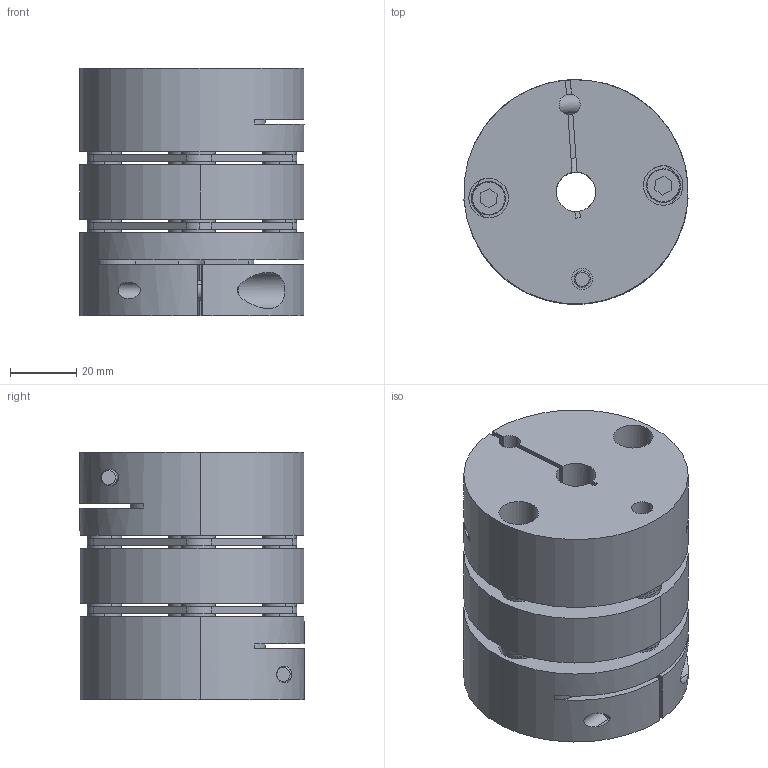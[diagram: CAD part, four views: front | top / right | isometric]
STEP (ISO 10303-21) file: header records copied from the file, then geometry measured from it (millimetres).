
FILE_DESCRIPTION (( 'STEP AP214' ), '1' );
FILE_NAME ('LC-G-060DA-12B-12B.STEP', '2019-09-16T02:52:25', ( 'admin' ), ( 'Microsoft' ), 'SwSTEP 2.0', 'SolidWorks 2016', '' );
FILE_SCHEMA (( 'AUTOMOTIVE_DESIGN' ));
Length unit declared in the file: millimetre
Products named in the file (1): LC-G-060DA-12B-12B
Bounding box: 67.85 x 67.99 x 75.1 mm (x, y, z)
Volume: 207157.2 mm3; surface area: 67777.3 mm2
Topology: 31 solids, 31 shells, 446 faces, 1034 edges, 668 vertices
Faces by surface type: cylinder 210, plane 176, torus 40, cone 20
Entity records: 18732 total; most frequent: CARTESIAN_POINT 2685, DIRECTION 2432, ORIENTED_EDGE 2068, EDGE_CURVE 1034, AXIS2_PLACEMENT_3D 971, VERTEX_POINT 668, EDGE_LOOP 562, CIRCLE 524
